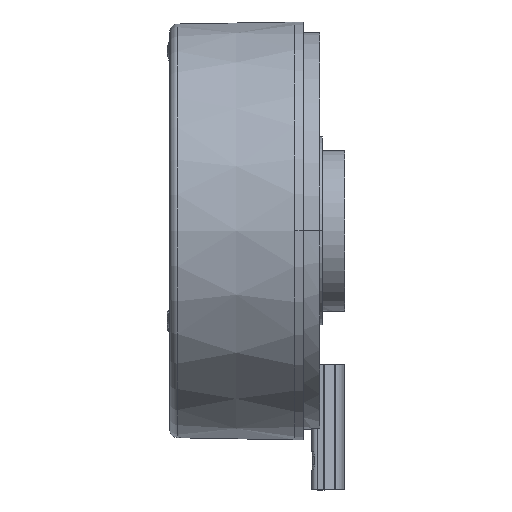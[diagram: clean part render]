
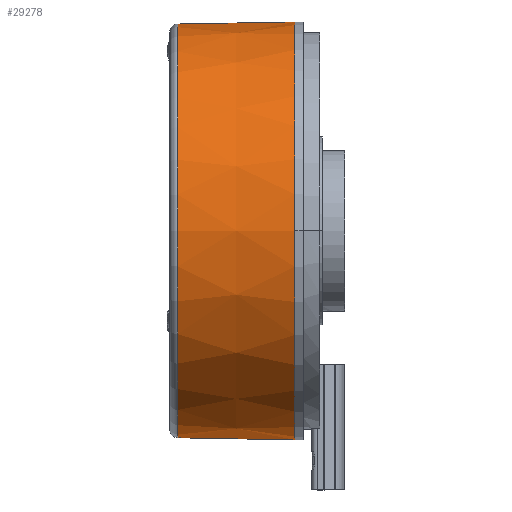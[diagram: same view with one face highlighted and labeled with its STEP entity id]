
A CAD part, top view. The second image highlights one B-rep face of the part: STEP entity #29278.
In plain terms, the highlighted conical face has half-angle 1 degrees and reference radius 50 mm.
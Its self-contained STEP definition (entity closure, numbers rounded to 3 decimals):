
#22328 = DIRECTION ( 'NONE',  ( 0., 1., 0. ) ) ;
#22329 = DIRECTION ( 'NONE',  ( 1., 0., 0. ) ) ;
#22330 = CARTESIAN_POINT ( 'NONE',  ( 15.192, -3.167, 0. ) ) ;
#22331 = AXIS2_PLACEMENT_3D ( 'NONE', #22330, #22329, #22328 ) ;
#22332 = CIRCLE ( 'NONE', #22331, 49.511 ) ;
#22334 = CARTESIAN_POINT ( 'NONE',  ( 15.192, -52.677, 0. ) ) ;
#22427 = CARTESIAN_POINT ( 'NONE',  ( 43.227, 46.833, 0. ) ) ;
#22428 = DIRECTION ( 'NONE',  ( 1., 0.017, 0. ) ) ;
#22429 = VECTOR ( 'NONE', #22428, 1000. ) ;
#22430 = CARTESIAN_POINT ( 'NONE',  ( 43.227, 46.833, 0. ) ) ;
#22431 = LINE ( 'NONE', #22430, #22429 ) ;
#22438 = CARTESIAN_POINT ( 'NONE',  ( 15.192, 46.344, 0. ) ) ;
#22626 = FACE_OUTER_BOUND ( 'NONE', #29279, .T. ) ;
#22648 = DIRECTION ( 'NONE',  ( 1., -0.017, 0. ) ) ;
#22649 = VECTOR ( 'NONE', #22648, 1000. ) ;
#22650 = CARTESIAN_POINT ( 'NONE',  ( 43.227, -53.167, 0. ) ) ;
#22651 = LINE ( 'NONE', #22650, #22649 ) ;
#22652 = DIRECTION ( 'NONE',  ( 0., -1., 0. ) ) ;
#22653 = DIRECTION ( 'NONE',  ( 1., 0., 0. ) ) ;
#22654 = AXIS2_PLACEMENT_3D ( 'NONE', #22657, #22653, #22652 ) ;
#22655 = CONICAL_SURFACE ( 'NONE', #22654, 50., 0.017 ) ;
#22657 = CARTESIAN_POINT ( 'NONE',  ( 43.227, -3.167, 0. ) ) ;
#22709 = CARTESIAN_POINT ( 'NONE',  ( 43.227, -53.167, 0. ) ) ;
#22842 = DIRECTION ( 'NONE',  ( 0., 1., 0. ) ) ;
#22843 = DIRECTION ( 'NONE',  ( -1., 0., 0. ) ) ;
#22844 = CARTESIAN_POINT ( 'NONE',  ( 43.227, -3.167, 0. ) ) ;
#22845 = AXIS2_PLACEMENT_3D ( 'NONE', #22844, #22843, #22842 ) ;
#22846 = CIRCLE ( 'NONE', #22845, 50. ) ;
#29143 = VERTEX_POINT ( 'NONE', #22334 ) ;
#29148 = EDGE_CURVE ( 'NONE', #29166, #29143, #22332, .T. ) ;
#29166 = VERTEX_POINT ( 'NONE', #22438 ) ;
#29176 = EDGE_CURVE ( 'NONE', #29166, #29177, #22431, .T. ) ;
#29177 = VERTEX_POINT ( 'NONE', #22427 ) ;
#29278 = ADVANCED_FACE ( 'NONE', ( #22626 ), #22655, .T. ) ;
#29279 = EDGE_LOOP ( 'NONE', ( #29281, #29282, #29283, #29291 ) ) ;
#29281 = ORIENTED_EDGE ( 'NONE', *, *, #29176, .F. ) ;
#29282 = ORIENTED_EDGE ( 'NONE', *, *, #29148, .T. ) ;
#29283 = ORIENTED_EDGE ( 'NONE', *, *, #29286, .T. ) ;
#29286 = EDGE_CURVE ( 'NONE', #29143, #29289, #22651, .T. ) ;
#29289 = VERTEX_POINT ( 'NONE', #22709 ) ;
#29291 = ORIENTED_EDGE ( 'NONE', *, *, #29382, .T. ) ;
#29382 = EDGE_CURVE ( 'NONE', #29289, #29177, #22846, .T. ) ;
